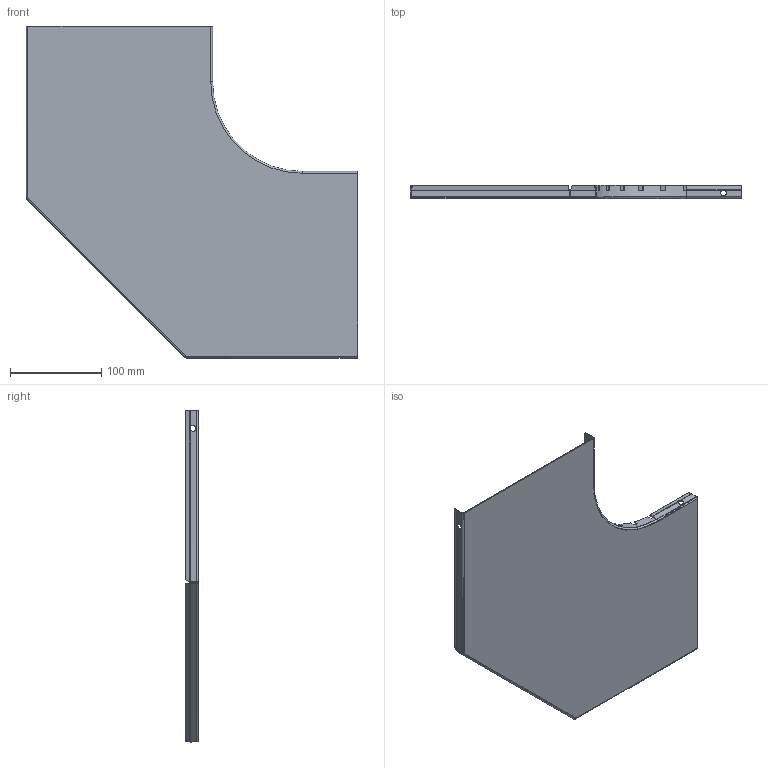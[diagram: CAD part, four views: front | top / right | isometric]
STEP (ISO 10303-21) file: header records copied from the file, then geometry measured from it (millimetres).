
FILE_DESCRIPTION (( 'STEP AP203' ), '1' );
FILE_NAME ('ERE_TAPA CP.STEP', '2020-02-12T11:53:10', ( '' ), ( '' ), 'SwSTEP 2.0', 'SolidWorks 2019', '' );
FILE_SCHEMA (( 'CONFIG_CONTROL_DESIGN' ));
Length unit declared in the file: millimetre
Products named in the file (1): ERE_TAPA CP
Bounding box: 363 x 14.19 x 363 mm (x, y, z)
Volume: 104216.8 mm3; surface area: 210037.6 mm2
Topology: 1 solids, 1 shells, 156 faces, 366 edges, 204 vertices
Faces by surface type: plane 71, cylinder 42, bspline 31, cone 8, torus 4
Entity records: 5593 total; most frequent: CARTESIAN_POINT 2212, ORIENTED_EDGE 732, DIRECTION 610, EDGE_CURVE 366, AXIS2_PLACEMENT_3D 212, VERTEX_POINT 204, LINE 186, VECTOR 186
